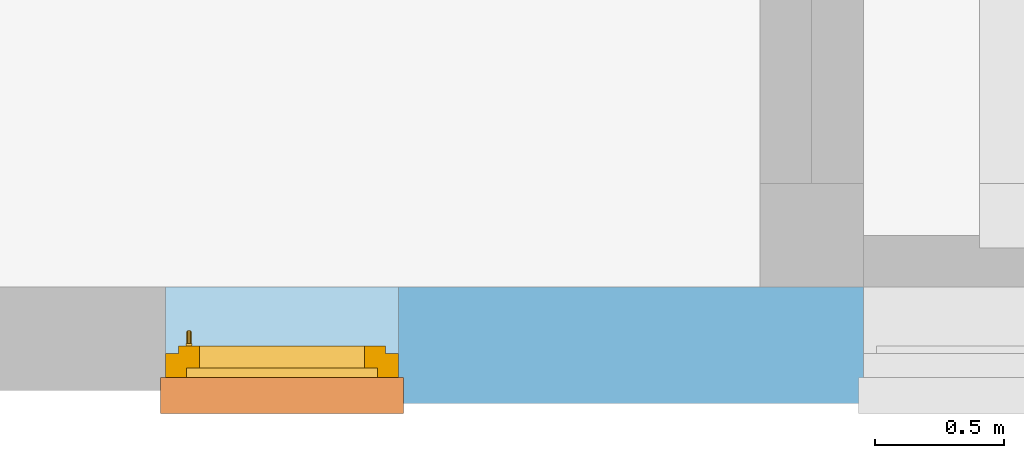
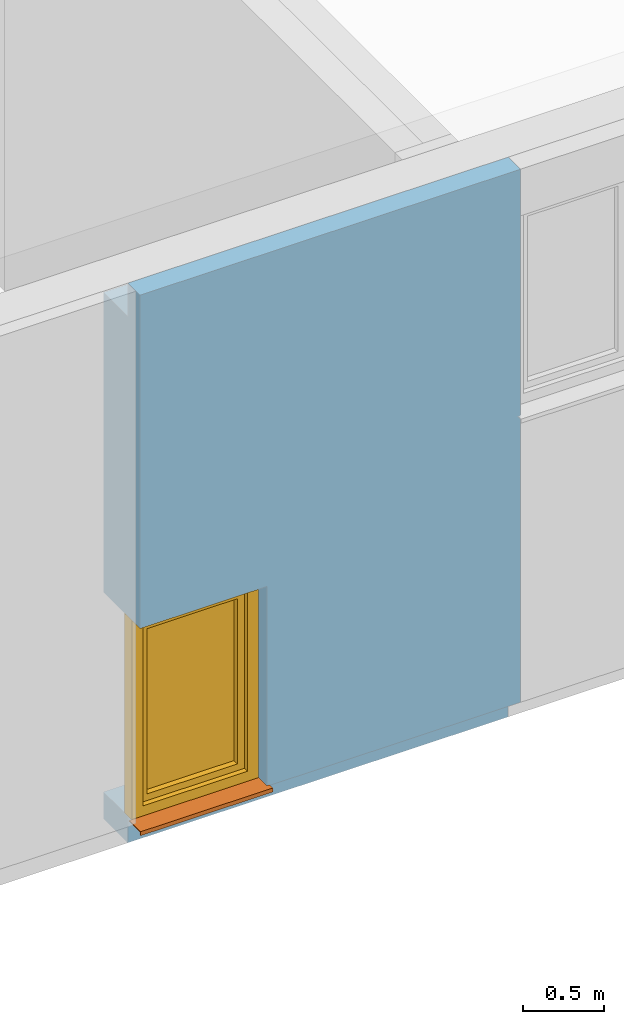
# One storey, part 11 of 17: 1 proxy, 1 window, 1 opening, plus 1 element that does not belong to this part.
"""IFC4 building model written with IfcOpenShell, lengths in metres."""

from ifc_helpers import new_model, entity, si_unit, converted_unit, derived_unit, frame, frame_2d, origin, origin_with_axes, place, context, subcontext, project, spatial, polyline, rectangle, outline, extrude, clip, bounded_halfspace, closed_shell, open_shell, faceted_brep, surface_model, source, transform, mapped, material, layer, layer_set, layer_usage, element, fill, save


model = new_model("IFC4")

# Units and contexts
model_context = context("Model", 3, precision=1e-05, world=origin())
body_context = subcontext(model_context, "Body", "Model", "MODEL_VIEW")
ifc_project = project(units=[si_unit("LENGTHUNIT", "METRE"), si_unit("AREAUNIT", "SQUARE_METRE"), si_unit("VOLUMEUNIT", "CUBIC_METRE"), si_unit("MASSUNIT", "GRAM", prefix="KILO"), converted_unit("PLANEANGLEUNIT", "DEGREE", entity("IfcPlaneAngleMeasure", 0.0174532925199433), si_unit("PLANEANGLEUNIT", "RADIAN"), dimensions=[0, 0, 0, 0, 0, 0, 0]), derived_unit("THERMALTRANSMITTANCEUNIT", [(si_unit("POWERUNIT", "WATT"), 1), (si_unit("THERMODYNAMICTEMPERATUREUNIT", "KELVIN"), -1), (si_unit("LENGTHUNIT", "METRE"), -2)]), derived_unit("VOLUMETRICFLOWRATEUNIT", [(si_unit("LENGTHUNIT", "METRE"), 3), (converted_unit("TIMEUNIT", "hour", entity("IfcTimeMeasure", 3600.0), si_unit("TIMEUNIT", "SECOND"), dimensions=[0, 0, 1, 0, 0, 0, 0]), -1), (si_unit("LENGTHUNIT", "METRE"), -1)])], contexts=[model_context])

# Site, building, storey
site_placement = place(None, origin())
site = spatial("IfcSite", under=ifc_project, at=site_placement, Name="3. ASŘ", CompositionType="ELEMENT")
building_placement = place(site_placement, origin())
building = spatial("IfcBuilding", under=site, at=building_placement, Name="Pavilon C", CompositionType="ELEMENT")
storey_placement = place(building_placement, frame((0.0, 0.0, 13.8)))
storey = spatial("IfcBuildingStorey", under=building, at=storey_placement, Name="Půdorys 5.NP", CompositionType="ELEMENT", Elevation=13.8)

# Wall, opening, window, proxy
ifc_material_1 = material(Name="EPS")
ifc_layer_1 = layer(ifc_material_1, 0.15)
ifc_material_2 = material(Name="PLYNOSILIKÁT")
ifc_layer_2 = layer(ifc_material_2, 0.300000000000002)
ifc_layer_set = layer_set([ifc_layer_1, ifc_layer_2])
ifc_layer_usage = layer_usage(ifc_layer_set, "AXIS2", "POSITIVE", -0.15)
wall_placement = place(storey_placement, frame((32.15, -4.65, -0.1), z_axis=(0.0, 0.0, 1.0), x_axis=(1.0, -3.36849889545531e-16, 0.0)))
wall = element("IfcWall", 1, at=wall_placement, inside=storey, material=ifc_layer_usage, Name="PLYNOSILIKÁT", context=body_context, shape_type="Clipping", body=[
    clip(clip(extrude(rectangle(XDim=2.69999999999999, YDim=0.450000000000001, at=frame_2d((1.34999999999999, 0.225), x_axis=(1.0, 0.0))), origin_with_axes(), (0.0, 0.0, 1.0), 4.2), bounded_halfspace(frame((1.34999999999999, 0.0749999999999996, 0.2), z_axis=(0.0, 0.0, 1.0), x_axis=(3.36849889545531e-16, -1.0, 0.0)), True, origin_with_axes(), polyline([(-5.05274834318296e-17, 0.15), (0.0, 0.0), (2.69999999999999, 0.0), (2.69999999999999, 0.15), (-5.05274834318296e-17, 0.15)]))), bounded_halfspace(frame((1.34999999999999, 0.300000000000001, 3.95), z_axis=(0.0, 0.0, -1.0), x_axis=(1.0, 0.0, 0.0)), True, origin_with_axes(), polyline([(-5.05274834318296e-17, 0.15), (2.69999999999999, 0.15), (2.69999999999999, 0.450000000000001), (-1.51582450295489e-16, 0.450000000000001), (-5.05274834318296e-17, 0.15)]))),
])
opening_placement = place(wall_placement, frame((0.0, 0.0, 0.2), z_axis=(-3.36849889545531e-16, 1.0, 0.0), x_axis=(0.0, 0.0, 1.0)))
opening = element("IfcOpeningElement", 2, at=opening_placement, cuts=wall, Name="Okenní otvor", ObjectType="Opening", context=body_context, shape_type="SweptSolid", body=[
    extrude(outline(polyline([(0.0, 0.9), (1.5, 0.9), (1.5, 0.0), (0.0, 0.0), (0.0, 0.9)])), origin_with_axes(), (0.0, 0.0, 1.0), 0.15),
    extrude(outline(polyline([(0.0, 0.9), (1.5, 0.9), (1.5, 0.0), (0.0, 0.0), (0.0, 0.9)])), frame((0.0, 0.0, 0.15), z_axis=(0.0, 0.0, 1.0), x_axis=(1.0, 0.0, 0.0)), (0.0, 0.0, 1.0), 0.300000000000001),
])
shared_shape_1 = source(origin_with_axes(), body_context, "Body", "SurfaceModel", [
    surface_model("IfcShellBasedSurfaceModel", [(0.0, 0.182, 1.5), (0.0, 0.182, -5.63337527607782e-18), (0.08, 0.182, -5.63337527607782e-18), (0.08, 0.182, 1.5), (0.0, 0.0899999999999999, 5.63337527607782e-18), (0.0, 0.0900000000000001, 1.5), (0.08, 0.0900000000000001, 1.5), (0.08, 0.0899999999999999, 5.63337527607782e-18)], [closed_shell([[[0, 1, 2, 3]], [[4, 5, 6, 7]], [[1, 0, 5, 4]], [[2, 1, 4, 7]], [[3, 2, 7, 6]], [[0, 3, 6, 5]]], orient=[[False], [False], [False], [False], [False], [False]])]),
    surface_model("IfcShellBasedSurfaceModel", [(0.82, 0.182, 1.5), (0.82, 0.182, -5.63337527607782e-18), (0.9, 0.182, -5.63337527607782e-18), (0.9, 0.182, 1.5), (0.82, 0.0899999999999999, 5.63337527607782e-18), (0.82, 0.0900000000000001, 1.5), (0.9, 0.0900000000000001, 1.5), (0.9, 0.0899999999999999, 5.63337527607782e-18)], [closed_shell([[[0, 1, 2, 3]], [[4, 5, 6, 7]], [[1, 0, 5, 4]], [[2, 1, 4, 7]], [[3, 2, 7, 6]], [[0, 3, 6, 5]]], orient=[[False], [False], [False], [False], [False], [False]])]),
    surface_model("IfcShellBasedSurfaceModel", [(0.08, 0.182, 0.08), (0.08, 0.182, -5.63337527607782e-18), (0.82, 0.182, -5.63337527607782e-18), (0.82, 0.182, 0.08), (0.08, 0.0899999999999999, 5.63337527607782e-18), (0.08, 0.0899999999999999, 0.08), (0.82, 0.0899999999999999, 0.08), (0.82, 0.0899999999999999, 5.63337527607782e-18)], [closed_shell([[[0, 1, 2, 3]], [[4, 5, 6, 7]], [[1, 0, 5, 4]], [[2, 1, 4, 7]], [[3, 2, 7, 6]], [[0, 3, 6, 5]]], orient=[[False], [False], [False], [False], [False], [False]])]),
    surface_model("IfcShellBasedSurfaceModel", [(0.08, 0.182, 1.5), (0.08, 0.182, 1.42), (0.82, 0.182, 1.42), (0.82, 0.182, 1.5), (0.08, 0.0900000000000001, 1.42), (0.08, 0.0900000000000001, 1.5), (0.82, 0.0900000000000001, 1.5), (0.82, 0.0900000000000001, 1.42)], [closed_shell([[[0, 1, 2, 3]], [[4, 5, 6, 7]], [[1, 0, 5, 4]], [[2, 1, 4, 7]], [[3, 2, 7, 6]], [[0, 3, 6, 5]]], orient=[[False], [False], [False], [False], [False], [False]])]),
    surface_model("IfcShellBasedSurfaceModel", [(0.05, 0.145, 1.45), (0.05, 0.145, 0.05), (0.13, 0.145, 0.05), (0.13, 0.145, 1.45), (0.05, 0.0599999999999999, 0.05), (0.05, 0.0600000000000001, 1.45), (0.13, 0.0600000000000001, 1.45), (0.13, 0.0599999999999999, 0.05)], [closed_shell([[[0, 1, 2, 3]], [[4, 5, 6, 7]], [[1, 0, 5, 4]], [[2, 1, 4, 7]], [[3, 2, 7, 6]], [[0, 3, 6, 5]]], orient=[[False], [False], [False], [False], [False], [False]])]),
    surface_model("IfcShellBasedSurfaceModel", [(0.77, 0.145, 1.45), (0.77, 0.145, 0.05), (0.85, 0.145, 0.05), (0.85, 0.145, 1.45), (0.77, 0.0599999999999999, 0.05), (0.77, 0.0600000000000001, 1.45), (0.85, 0.0600000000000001, 1.45), (0.85, 0.0599999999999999, 0.05)], [closed_shell([[[0, 1, 2, 3]], [[4, 5, 6, 7]], [[1, 0, 5, 4]], [[2, 1, 4, 7]], [[3, 2, 7, 6]], [[0, 3, 6, 5]]], orient=[[False], [False], [False], [False], [False], [False]])]),
    surface_model("IfcShellBasedSurfaceModel", [(0.13, 0.145, 0.13), (0.13, 0.145, 0.05), (0.77, 0.145, 0.05), (0.77, 0.145, 0.13), (0.13, 0.0599999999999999, 0.05), (0.13, 0.0599999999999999, 0.13), (0.77, 0.0599999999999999, 0.13), (0.77, 0.0599999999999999, 0.05)], [closed_shell([[[0, 1, 2, 3]], [[4, 5, 6, 7]], [[1, 0, 5, 4]], [[2, 1, 4, 7]], [[3, 2, 7, 6]], [[0, 3, 6, 5]]], orient=[[False], [False], [False], [False], [False], [False]])]),
    surface_model("IfcShellBasedSurfaceModel", [(0.13, 0.145, 1.45), (0.13, 0.145, 1.37), (0.77, 0.145, 1.37), (0.77, 0.145, 1.45), (0.13, 0.0600000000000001, 1.37), (0.13, 0.0600000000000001, 1.45), (0.77, 0.0600000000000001, 1.45), (0.77, 0.0600000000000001, 1.37)], [closed_shell([[[0, 1, 2, 3]], [[4, 5, 6, 7]], [[1, 0, 5, 4]], [[2, 1, 4, 7]], [[3, 2, 7, 6]], [[0, 3, 6, 5]]], orient=[[False], [False], [False], [False], [False], [False]])]),
    surface_model("IfcShellBasedSurfaceModel", [(0.0775, 0.06, 0.77), (0.0775, 0.06, 0.73), (0.1025, 0.06, 0.73), (0.1025, 0.06, 0.77), (0.0775, 0.05, 0.73), (0.0775, 0.05, 0.77), (0.1025, 0.05, 0.77), (0.1025, 0.05, 0.73)], [closed_shell([[[0, 1, 2, 3]], [[4, 5, 6, 7]], [[1, 0, 5, 4]], [[2, 1, 4, 7]], [[3, 2, 7, 6]], [[0, 3, 6, 5]]], orient=[[False], [False], [False], [False], [False], [False]])]),
    surface_model("IfcShellBasedSurfaceModel", [(0.1, 0.05, 0.75), (0.0986602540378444, 0.05, 0.755), (0.095, 0.05, 0.758660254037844), (0.09, 0.05, 0.76), (0.085, 0.05, 0.758660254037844), (0.0813397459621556, 0.05, 0.755), (0.08, 0.05, 0.75), (0.0813397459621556, 0.05, 0.745), (0.085, 0.05, 0.741339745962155), (0.09, 0.05, 0.74), (0.095, 0.05, 0.741339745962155), (0.0986602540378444, 0.05, 0.745), (0.1, 0.01, 0.75), (0.0986602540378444, 0.00500000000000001, 0.755), (0.095, 0.00133974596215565, 0.758660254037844), (0.09, 2.8421709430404e-17, 0.76), (0.085, 0.00133974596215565, 0.758660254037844), (0.0813397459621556, 0.00500000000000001, 0.755), (0.08, 0.01, 0.75), (0.0813397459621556, 0.015, 0.745), (0.085, 0.0186602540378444, 0.741339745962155), (0.09, 0.02, 0.74), (0.095, 0.0186602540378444, 0.741339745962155), (0.0986602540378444, 0.015, 0.745), (0.1, 0.01, 0.635), (0.0986602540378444, 0.005, 0.635), (0.095, 0.00133974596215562, 0.635), (0.09, 0.0, 0.635), (0.085, 0.00133974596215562, 0.635), (0.0813397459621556, 0.005, 0.635), (0.08, 0.01, 0.635), (0.0813397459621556, 0.015, 0.635), (0.085, 0.0186602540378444, 0.635), (0.09, 0.02, 0.635), (0.095, 0.0186602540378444, 0.635), (0.0986602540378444, 0.015, 0.635)], [open_shell([[[0, 1, 2, 3, 4, 5, 6, 7, 8, 9, 10, 11]], [[0, 12, 13, 1]], [[1, 13, 14, 2]], [[2, 14, 15, 3]], [[3, 15, 16, 4]], [[4, 16, 17, 5]], [[5, 17, 18, 6]], [[6, 18, 19, 7]], [[7, 19, 20, 8]], [[8, 20, 21, 9]], [[9, 21, 22, 10]], [[10, 22, 23, 11]], [[11, 23, 12, 0]], [[12, 24, 25, 13]], [[13, 25, 26, 14]], [[14, 26, 27, 15]], [[15, 27, 28, 16]], [[16, 28, 29, 17]], [[17, 29, 30, 18]], [[18, 30, 31, 19]], [[19, 31, 32, 20]], [[20, 32, 33, 21]], [[21, 33, 34, 22]], [[22, 34, 35, 23]], [[23, 35, 24, 12]]], orient=[[False], [False], [False], [False], [False], [False], [False], [False], [False], [False], [False], [False], [False], [False], [False], [False], [False], [False], [False], [False], [False], [False], [False], [False], [False]])]),
    surface_model("IfcShellBasedSurfaceModel", [(0.13, 0.1025, 0.13), (0.77, 0.1025, 0.13), (0.77, 0.1025, 1.37), (0.13, 0.1025, 1.37)], [open_shell([[[0, 1, 2, 3]]], orient=[[False]])]),
])
window_placement = place(opening_placement, frame((0.0, 0.0, 0.282), z_axis=(1.0, 0.0, 0.0), x_axis=(0.0, 1.0, -1.22464679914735e-16)))
window = element("IfcWindow", 3, at=window_placement, inside=storey, Name="O06", OverallHeight=1.5, OverallWidth=0.9, PartitioningType="USERDEFINED", PredefinedType="WINDOW", context=body_context, shape_type="MappedRepresentation", body=[
    mapped(shared_shape_1, transform((0.0, 0.0, 0.0), x_axis=(1.0, 0.0, 0.0), y_axis=(0.0, -1.0, 0.0), z_axis=(0.0, 0.0, 1.0), scale=1.0)),
])
fill(opening, window)
ifc_material_3 = material(Name="PLECH")
shared_shape_2 = source(origin_with_axes(), body_context, "Body", "Brep", [
    faceted_brep([(0.0, 0.0, 0.0), (0.0, 0.1, 0.0), (0.0, 0.1, 0.005), (0.0, 0.0, 0.005), (0.9, 0.0, 0.0), (0.9, 0.0, 0.005), (0.9, 0.1, 0.005), (0.9, 0.1, 0.0), (-0.02, 0.0, 0.0), (-0.02, -0.035, 0.0), (0.92, -0.035, 0.0), (0.92, 0.0, 0.0), (0.92, 0.0, 0.005), (0.92, -0.04, 0.005), (-0.02, -0.04, 0.005), (-0.02, 0.0, 0.005), (-0.02, -0.04, -0.025), (-0.02, -0.035, -0.025), (0.92, -0.035, -0.025), (0.92, -0.04, -0.025)], [[[0, 1, 2, 3]], [[4, 5, 6, 7]], [[1, 0, 8, 9, 10, 11, 4, 7]], [[2, 1, 7, 6]], [[3, 2, 6, 5, 12, 13, 14, 15]], [[8, 15, 14, 16, 17, 9]], [[11, 10, 18, 19, 13, 12]], [[15, 8, 0, 3]], [[5, 4, 11, 12]], [[16, 14, 13, 19]], [[17, 16, 19, 18]], [[9, 17, 18, 10]]], orient=[[False], [False], [False], [False], [False], [False], [False], [False], [False], [False], [False], [False]]),
    faceted_brep([(-0.02, 0.0, 0.0), (-0.02, 0.1, 0.0), (-0.02, 0.1, 0.005), (-0.02, 0.0, 0.005), (0.0, 0.0, 0.0), (0.0, 0.0, 0.005), (0.0, 0.1, 0.005), (0.0, 0.1, 0.0)], [[[0, 1, 2, 3]], [[4, 5, 6, 7]], [[1, 0, 4, 7]], [[2, 1, 7, 6]], [[3, 2, 6, 5]], [[0, 3, 5, 4]]], orient=[[False], [False], [False], [False], [False], [False]]),
    faceted_brep([(0.9, 0.0, 0.0), (0.9, 0.1, 0.0), (0.9, 0.1, 0.005), (0.9, 0.0, 0.005), (0.92, 0.0, 0.0), (0.92, 0.0, 0.005), (0.92, 0.1, 0.005), (0.92, 0.1, 0.0)], [[[0, 1, 2, 3]], [[4, 5, 6, 7]], [[1, 0, 4, 7]], [[2, 1, 7, 6]], [[3, 2, 6, 5]], [[0, 3, 5, 4]]], orient=[[False], [False], [False], [False], [False], [False]]),
])
proxy_placement = place(opening_placement, frame((0.0, 0.0, 0.0), z_axis=(1.0, 0.0, 0.0), x_axis=(0.0, 1.0, 0.0)))
proxy = element("IfcBuildingElementProxy", 4, at=proxy_placement, inside=storey, material=ifc_material_3, Name="Parapet vnější", context=body_context, shape_type="MappedRepresentation", body=[
    mapped(shared_shape_2, transform((0.0, 0.0, 0.0), x_axis=(1.0, 0.0, 0.0), y_axis=(0.0, 1.0, 0.0), z_axis=(0.0, 0.0, 1.0), scale=1.0)),
])
fill(opening, proxy)

save(model, "model.ifc")
